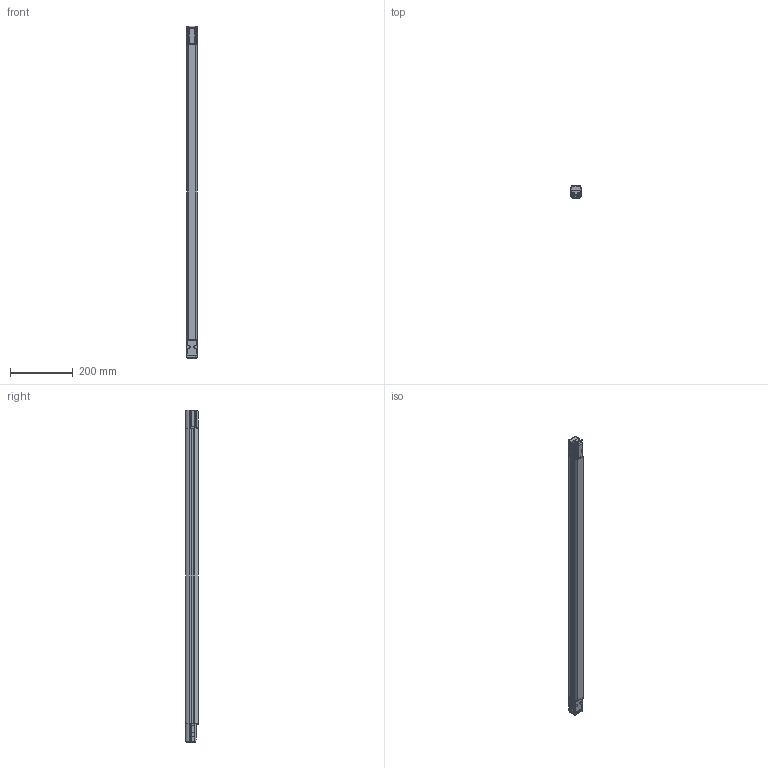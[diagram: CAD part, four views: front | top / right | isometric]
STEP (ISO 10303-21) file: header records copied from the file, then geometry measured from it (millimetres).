
FILE_DESCRIPTION(/* description */ (''),/* implementation_level */ '2;1');
FILE_NAME(/* name */ 'SH4 - 1050 mm DSD Barriera senza Smart Plug.stp',/* time_stamp */ '2022-12-02T18:30:01+01:00',/* author */ (''),/* organization */ (''),/* preprocessor_version */ 'ST-DEVELOPER v16.701',/* originating_system */ 'SIEMENS PLM Software NX 1946',/* authorisation */ '');
FILE_SCHEMA (('AP203_CONFIGURATION_CONTROLLED_3D_DESIGN_OF_MECHANICAL_PARTS_AND_ASSEMBLIES_MIM_LF { 1 0 10303 403 2 1 2}'));
Length unit declared in the file: millimetre
Products named in the file (1): MRos63D4F2E59wys
Bounding box: 35.08 x 40 x 1059 mm (x, y, z)
Volume: 1235130.1 mm3; surface area: 250272.1 mm2
Topology: 6 solids, 11 shells, 891 faces, 2428 edges, 1549 vertices
Faces by surface type: plane 363, cylinder 315, bspline 92, cone 55, extrusion 24, sphere 22, torus 20
Full cylindrical faces by diameter (mm): 2.013 x4, 2.2 x4, 3 x4, 4.37 x4, 5 x8
Entity records: 34734 total; most frequent: CARTESIAN_POINT 13104, ORIENTED_EDGE 4576, DIRECTION 3865, EDGE_CURVE 2288, VERTEX_POINT 1515, AXIS2_PLACEMENT_3D 1345, VECTOR 1175, LINE 1151
